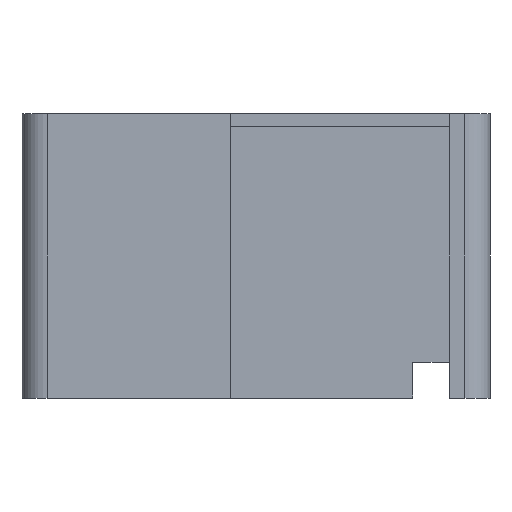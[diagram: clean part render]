
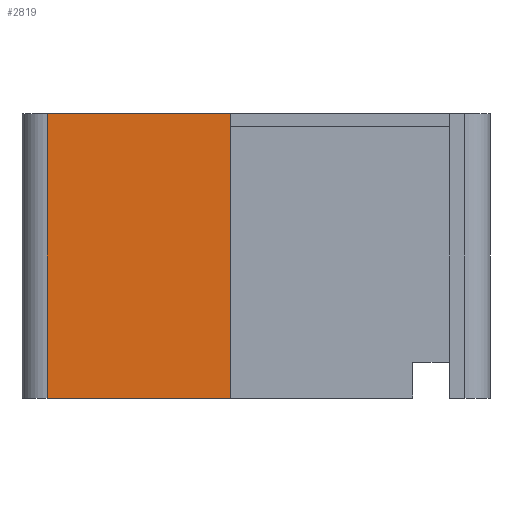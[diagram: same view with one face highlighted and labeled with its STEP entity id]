
A CAD part, front view. The second image highlights one B-rep face of the part: STEP entity #2819.
In plain terms, the highlighted planar face has unit normal (0, -1, 0).
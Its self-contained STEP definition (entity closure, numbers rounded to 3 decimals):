
#44 = PLANE('',#45);
#45 = AXIS2_PLACEMENT_3D('',#46,#47,#48);
#46 = CARTESIAN_POINT('',(-56.,-75.,74.4));
#47 = DIRECTION('',(0.,0.,1.));
#48 = DIRECTION('',(1.,0.,0.));
#72 = CYLINDRICAL_SURFACE('',#73,6.);
#73 = AXIS2_PLACEMENT_3D('',#74,#75,#76);
#74 = CARTESIAN_POINT('',(-50.,-69.,6.4));
#75 = DIRECTION('',(0.,0.,1.));
#76 = DIRECTION('',(-1.,-0.,0.));
#100 = PLANE('',#101);
#101 = AXIS2_PLACEMENT_3D('',#102,#103,#104);
#102 = CARTESIAN_POINT('',(-56.,-75.,6.4));
#103 = DIRECTION('',(0.,0.,1.));
#104 = DIRECTION('',(1.,0.,0.));
#425 = VERTEX_POINT('',#426);
#426 = CARTESIAN_POINT('',(-50.,-75.,74.4));
#448 = EDGE_CURVE('',#425,#449,#451,.T.);
#449 = VERTEX_POINT('',#450);
#450 = CARTESIAN_POINT('',(-6.2,-75.,74.4));
#451 = SURFACE_CURVE('',#452,(#456,#463),.PCURVE_S1.);
#452 = LINE('',#453,#454);
#453 = CARTESIAN_POINT('',(-56.,-75.,74.4));
#454 = VECTOR('',#455,1.);
#455 = DIRECTION('',(1.,0.,0.));
#456 = PCURVE('',#44,#457);
#457 = DEFINITIONAL_REPRESENTATION('',(#458),#462);
#458 = LINE('',#459,#460);
#459 = CARTESIAN_POINT('',(0.,0.));
#460 = VECTOR('',#461,1.);
#461 = DIRECTION('',(1.,0.));
#462 = ( GEOMETRIC_REPRESENTATION_CONTEXT(2) 
PARAMETRIC_REPRESENTATION_CONTEXT() REPRESENTATION_CONTEXT('2D SPACE',''
  ) );
#463 = PCURVE('',#464,#469);
#464 = PLANE('',#465);
#465 = AXIS2_PLACEMENT_3D('',#466,#467,#468);
#466 = CARTESIAN_POINT('',(-56.,-75.,6.4));
#467 = DIRECTION('',(0.,1.,0.));
#468 = DIRECTION('',(0.,0.,1.));
#469 = DEFINITIONAL_REPRESENTATION('',(#470),#474);
#470 = LINE('',#471,#472);
#471 = CARTESIAN_POINT('',(68.,0.));
#472 = VECTOR('',#473,1.);
#473 = DIRECTION('',(0.,1.));
#474 = ( GEOMETRIC_REPRESENTATION_CONTEXT(2) 
PARAMETRIC_REPRESENTATION_CONTEXT() REPRESENTATION_CONTEXT('2D SPACE',''
  ) );
#491 = PLANE('',#492);
#492 = AXIS2_PLACEMENT_3D('',#493,#494,#495);
#493 = CARTESIAN_POINT('',(-6.2,-80.5,6.));
#494 = DIRECTION('',(1.,0.,0.));
#495 = DIRECTION('',(0.,0.,1.));
#1188 = VERTEX_POINT('',#1189);
#1189 = CARTESIAN_POINT('',(-50.,-75.,6.4));
#1211 = EDGE_CURVE('',#1188,#425,#1212,.T.);
#1212 = SURFACE_CURVE('',#1213,(#1217,#1224),.PCURVE_S1.);
#1213 = LINE('',#1214,#1215);
#1214 = CARTESIAN_POINT('',(-50.,-75.,6.4));
#1215 = VECTOR('',#1216,1.);
#1216 = DIRECTION('',(0.,0.,1.));
#1217 = PCURVE('',#72,#1218);
#1218 = DEFINITIONAL_REPRESENTATION('',(#1219),#1223);
#1219 = LINE('',#1220,#1221);
#1220 = CARTESIAN_POINT('',(1.571,0.));
#1221 = VECTOR('',#1222,1.);
#1222 = DIRECTION('',(0.,1.));
#1223 = ( GEOMETRIC_REPRESENTATION_CONTEXT(2) 
PARAMETRIC_REPRESENTATION_CONTEXT() REPRESENTATION_CONTEXT('2D SPACE',''
  ) );
#1224 = PCURVE('',#464,#1225);
#1225 = DEFINITIONAL_REPRESENTATION('',(#1226),#1230);
#1226 = LINE('',#1227,#1228);
#1227 = CARTESIAN_POINT('',(0.,6.));
#1228 = VECTOR('',#1229,1.);
#1229 = DIRECTION('',(1.,0.));
#1230 = ( GEOMETRIC_REPRESENTATION_CONTEXT(2) 
PARAMETRIC_REPRESENTATION_CONTEXT() REPRESENTATION_CONTEXT('2D SPACE',''
  ) );
#1293 = EDGE_CURVE('',#1188,#1294,#1296,.T.);
#1294 = VERTEX_POINT('',#1295);
#1295 = CARTESIAN_POINT('',(-6.2,-75.,6.4));
#1296 = SURFACE_CURVE('',#1297,(#1301,#1308),.PCURVE_S1.);
#1297 = LINE('',#1298,#1299);
#1298 = CARTESIAN_POINT('',(-56.,-75.,6.4));
#1299 = VECTOR('',#1300,1.);
#1300 = DIRECTION('',(1.,0.,0.));
#1301 = PCURVE('',#100,#1302);
#1302 = DEFINITIONAL_REPRESENTATION('',(#1303),#1307);
#1303 = LINE('',#1304,#1305);
#1304 = CARTESIAN_POINT('',(0.,0.));
#1305 = VECTOR('',#1306,1.);
#1306 = DIRECTION('',(1.,0.));
#1307 = ( GEOMETRIC_REPRESENTATION_CONTEXT(2) 
PARAMETRIC_REPRESENTATION_CONTEXT() REPRESENTATION_CONTEXT('2D SPACE',''
  ) );
#1308 = PCURVE('',#464,#1309);
#1309 = DEFINITIONAL_REPRESENTATION('',(#1310),#1314);
#1310 = LINE('',#1311,#1312);
#1311 = CARTESIAN_POINT('',(0.,0.));
#1312 = VECTOR('',#1313,1.);
#1313 = DIRECTION('',(0.,1.));
#1314 = ( GEOMETRIC_REPRESENTATION_CONTEXT(2) 
PARAMETRIC_REPRESENTATION_CONTEXT() REPRESENTATION_CONTEXT('2D SPACE',''
  ) );
#2760 = EDGE_CURVE('',#449,#1294,#2761,.T.);
#2761 = SURFACE_CURVE('',#2762,(#2766,#2772),.PCURVE_S1.);
#2762 = LINE('',#2763,#2764);
#2763 = CARTESIAN_POINT('',(-6.2,-75.,6.2));
#2764 = VECTOR('',#2765,1.);
#2765 = DIRECTION('',(0.,0.,-1.));
#2766 = PCURVE('',#491,#2767);
#2767 = DEFINITIONAL_REPRESENTATION('',(#2768),#2771);
#2768 = B_SPLINE_CURVE_WITH_KNOTS('',1,(#2769,#2770),.UNSPECIFIED.,.F.,
  .F.,(2,2),(-68.2,-0.2),.PIECEWISE_BEZIER_KNOTS.);
#2769 = CARTESIAN_POINT('',(68.4,-5.5));
#2770 = CARTESIAN_POINT('',(0.4,-5.5));
#2771 = ( GEOMETRIC_REPRESENTATION_CONTEXT(2) 
PARAMETRIC_REPRESENTATION_CONTEXT() REPRESENTATION_CONTEXT('2D SPACE',''
  ) );
#2772 = PCURVE('',#464,#2773);
#2773 = DEFINITIONAL_REPRESENTATION('',(#2774),#2777);
#2774 = B_SPLINE_CURVE_WITH_KNOTS('',1,(#2775,#2776),.UNSPECIFIED.,.F.,
  .F.,(2,2),(-68.2,-0.2),.PIECEWISE_BEZIER_KNOTS.);
#2775 = CARTESIAN_POINT('',(68.,49.8));
#2776 = CARTESIAN_POINT('',(0.,49.8));
#2777 = ( GEOMETRIC_REPRESENTATION_CONTEXT(2) 
PARAMETRIC_REPRESENTATION_CONTEXT() REPRESENTATION_CONTEXT('2D SPACE',''
  ) );
#2819 = ADVANCED_FACE('',(#2820),#464,.F.);
#2820 = FACE_BOUND('',#2821,.F.);
#2821 = EDGE_LOOP('',(#2822,#2823,#2824,#2825));
#2822 = ORIENTED_EDGE('',*,*,#1293,.F.);
#2823 = ORIENTED_EDGE('',*,*,#1211,.T.);
#2824 = ORIENTED_EDGE('',*,*,#448,.T.);
#2825 = ORIENTED_EDGE('',*,*,#2760,.T.);
